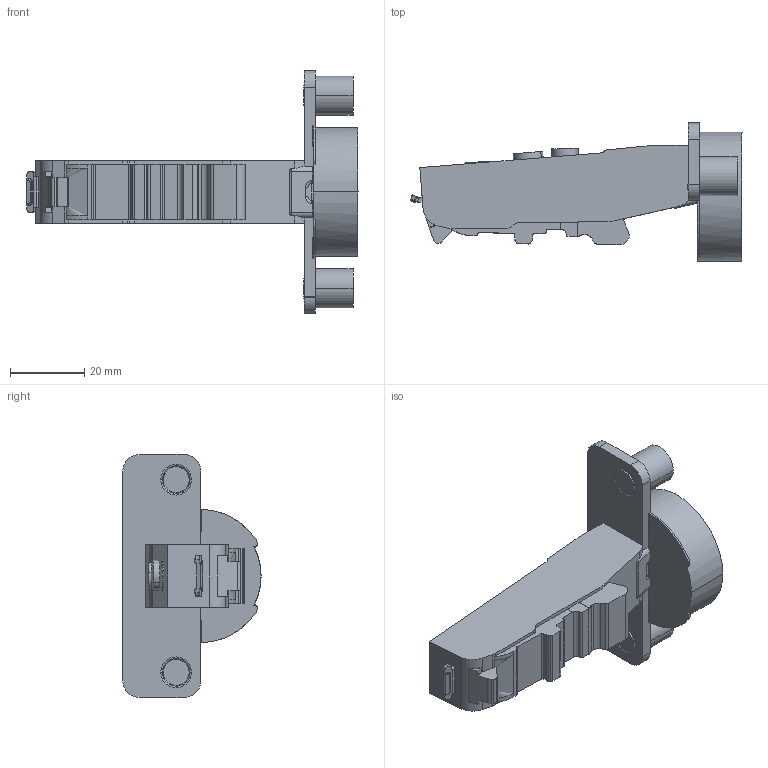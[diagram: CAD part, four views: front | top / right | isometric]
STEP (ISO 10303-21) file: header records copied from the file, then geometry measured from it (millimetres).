
FILE_DESCRIPTION (( 'STEP AP203' ), '1' );
FILE_NAME ('C81B876MFAB DTC 3D CLOSE.STEP', '2024-07-18T07:30:02', ( '微软用户' ), ( '微软中国' ), 'SwSTEP 2.0', 'SolidWorks 2021', '' );
FILE_SCHEMA (( 'CONFIG_CONTROL_DESIGN' ));
Length unit declared in the file: millimetre
Products named in the file (1): C81B876MFAB DTC 3D CLOSE
Bounding box: 89.61 x 37.33 x 65.6 mm (x, y, z)
Volume: 41356.6 mm3; surface area: 11929.8 mm2
Topology: 1 solids, 1 shells, 245 faces, 695 edges, 460 vertices
Faces by surface type: cylinder 111, plane 95, torus 20, bspline 15, cone 4
Entity records: 8682 total; most frequent: CARTESIAN_POINT 2265, ORIENTED_EDGE 1390, DIRECTION 1305, EDGE_CURVE 695, AXIS2_PLACEMENT_3D 479, VERTEX_POINT 460, LINE 347, VECTOR 347
